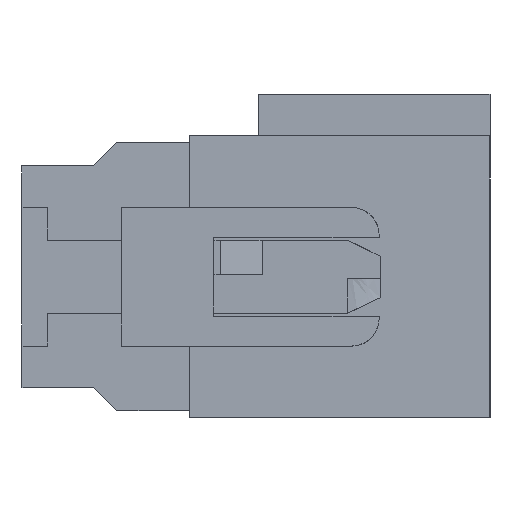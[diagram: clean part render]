
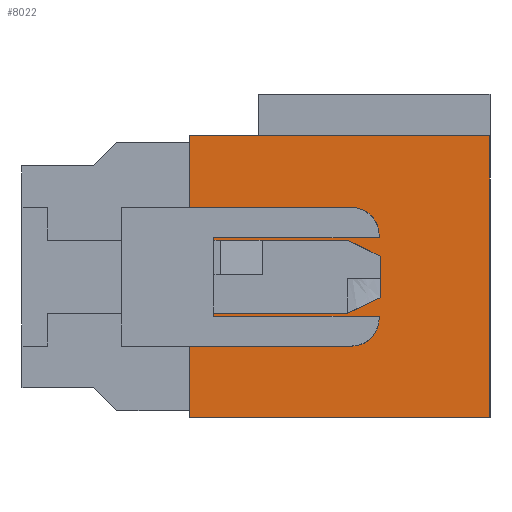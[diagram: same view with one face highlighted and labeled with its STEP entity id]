
A CAD part, left-side view. The second image highlights one B-rep face of the part: STEP entity #8022.
In plain terms, the highlighted planar face has unit normal (-1, 0, 0).
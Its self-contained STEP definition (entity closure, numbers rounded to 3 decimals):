
#9=DIRECTION('',(0.,-1.,0.));
#10=VECTOR('',#9,3.421);
#11=CARTESIAN_POINT('',(1.48,6.5,-4.74));
#12=LINE('5178',#11,#10);
#13=DIRECTION('',(0.,-0.899,0.438));
#14=VECTOR('',#13,0.379);
#15=CARTESIAN_POINT('',(1.48,3.079,-4.74));
#16=LINE('5181',#15,#14);
#17=DIRECTION('',(0.,0.,-1.));
#18=VECTOR('',#17,1.248);
#19=CARTESIAN_POINT('',(1.48,2.739,-3.326));
#20=LINE('5182',#19,#18);
#21=DIRECTION('',(0.,0.899,0.438));
#22=VECTOR('',#21,0.379);
#23=CARTESIAN_POINT('',(1.48,2.739,-3.326));
#24=LINE('5180',#23,#22);
#25=DIRECTION('',(0.,-1.,0.));
#26=VECTOR('',#25,3.421);
#27=CARTESIAN_POINT('',(1.48,6.5,-3.16));
#28=LINE('5179',#27,#26);
#29=DIRECTION('',(0.,-1.,0.));
#30=VECTOR('',#29,0.52);
#31=CARTESIAN_POINT('',(1.48,6.5,-3.12));
#32=LINE('4506',#31,#30);
#33=DIRECTION('',(0.,0.,-1.));
#34=VECTOR('',#33,0.02);
#35=CARTESIAN_POINT('',(1.48,5.98,-3.1));
#36=LINE('4505',#35,#34);
#37=DIRECTION('',(0.,1.,0.));
#38=VECTOR('',#37,3.38);
#39=CARTESIAN_POINT('',(1.48,2.6,-3.1));
#40=LINE('4504',#39,#38);
#41=DIRECTION('',(0.,0.,1.));
#42=VECTOR('',#41,0.497);
#43=CARTESIAN_POINT('',(1.48,2.6,-3.1));
#44=LINE('4512',#43,#42);
#45=DIRECTION('',(0.,-1.,0.));
#46=VECTOR('',#45,6.5);
#47=CARTESIAN_POINT('',(1.48,6.5,-0.9));
#48=LINE('4135',#47,#46);
#49=DIRECTION('',(0.,1.,0.));
#50=VECTOR('',#49,6.5);
#51=CARTESIAN_POINT('',(1.48,0.,-7.));
#52=LINE('4134',#51,#50);
#53=DIRECTION('',(0.,-1.,0.));
#54=VECTOR('',#53,3.5);
#55=CARTESIAN_POINT('',(1.48,6.5,-5.45));
#56=LINE('4160',#55,#54);
#57=DIRECTION('',(0.,0.,1.));
#58=VECTOR('',#57,0.497);
#59=CARTESIAN_POINT('',(1.48,2.6,-5.297));
#60=LINE('4163',#59,#58);
#137=DIRECTION('',(0.,0.,-1.));
#138=VECTOR('',#137,1.55);
#139=CARTESIAN_POINT('',(1.48,6.5,-0.9));
#140=LINE('4133',#139,#138);
#149=DIRECTION('',(0.,0.,-1.));
#150=VECTOR('',#149,0.04);
#151=CARTESIAN_POINT('',(1.48,6.5,-3.12));
#152=LINE('5371',#151,#150);
#181=DIRECTION('',(0.,0.,-1.));
#182=VECTOR('',#181,0.06);
#183=CARTESIAN_POINT('',(1.48,6.5,-4.74));
#184=LINE('5372',#183,#182);
#193=DIRECTION('',(0.,0.,1.));
#194=VECTOR('',#193,1.55);
#195=CARTESIAN_POINT('',(1.48,6.5,-7.));
#196=LINE('4132',#195,#194);
#617=DIRECTION('',(0.,0.,1.));
#618=VECTOR('',#617,6.1);
#619=CARTESIAN_POINT('',(1.48,0.,-7.));
#620=LINE('4093',#619,#618);
#3520=DIRECTION('',(0.,-1.,0.));
#3521=VECTOR('',#3520,3.9);
#3522=CARTESIAN_POINT('',(1.48,6.5,-4.8));
#3523=LINE('4502',#3522,#3521);
#3586=DIRECTION('',(0.,-1.,0.));
#3587=VECTOR('',#3586,3.5);
#3588=CARTESIAN_POINT('',(1.48,6.5,-2.45));
#3589=LINE('4161',#3588,#3587);
#3603=CARTESIAN_POINT('',(1.48,3.,-3.05));
#3604=DIRECTION('',(1.,0.,0.));
#3605=DIRECTION('',(0.,0.,1.));
#3606=AXIS2_PLACEMENT_3D('',#3603,#3604,#3605);
#3608=CARTESIAN_POINT('',(1.48,2.6,-2.603));
#3754=CARTESIAN_POINT('',(1.48,2.6,-5.297));
#3756=CARTESIAN_POINT('',(1.48,3.,-4.85));
#3757=DIRECTION('',(1.,0.,0.));
#3758=DIRECTION('',(0.,-0.667,-0.745));
#3759=AXIS2_PLACEMENT_3D('',#3756,#3757,#3758);
#6062=CARTESIAN_POINT('',(1.48,0.,-7.));
#6064=VERTEX_POINT('',#6062);
#6068=CARTESIAN_POINT('',(1.48,0.,-0.9));
#6069=VERTEX_POINT('',#6068);
#6111=CARTESIAN_POINT('',(1.48,6.5,-7.));
#6113=VERTEX_POINT('',#6111);
#6142=CARTESIAN_POINT('',(1.48,6.5,-5.45));
#6143=VERTEX_POINT('',#6142);
#6144=CARTESIAN_POINT('',(1.48,6.5,-0.9));
#6145=CARTESIAN_POINT('',(1.48,6.5,-2.45));
#6146=VERTEX_POINT('',#6144);
#6147=VERTEX_POINT('',#6145);
#6156=CARTESIAN_POINT('',(1.48,5.98,-3.1));
#6157=VERTEX_POINT('',#6156);
#6164=CARTESIAN_POINT('',(1.48,3.,-2.45));
#6165=VERTEX_POINT('',#6164);
#6175=CARTESIAN_POINT('',(1.48,3.,-5.45));
#6177=VERTEX_POINT('',#6175);
#6180=VERTEX_POINT('',#3608);
#6187=VERTEX_POINT('',#3754);
#6194=CARTESIAN_POINT('',(1.48,2.6,-4.8));
#6195=VERTEX_POINT('',#6194);
#6627=CARTESIAN_POINT('',(1.48,6.5,-4.8));
#6628=VERTEX_POINT('',#6627);
#6629=CARTESIAN_POINT('',(1.48,2.6,-3.1));
#6630=VERTEX_POINT('',#6629);
#6631=CARTESIAN_POINT('',(1.48,5.98,-3.12));
#6632=VERTEX_POINT('',#6631);
#6633=CARTESIAN_POINT('',(1.48,6.5,-3.12));
#6634=VERTEX_POINT('',#6633);
#7575=CARTESIAN_POINT('',(1.48,6.5,-4.74));
#7577=VERTEX_POINT('',#7575);
#7579=CARTESIAN_POINT('',(1.48,6.5,-3.16));
#7581=VERTEX_POINT('',#7579);
#7596=CARTESIAN_POINT('',(1.48,3.079,-4.74));
#7597=VERTEX_POINT('',#7596);
#7598=CARTESIAN_POINT('',(1.48,3.079,-3.16));
#7599=VERTEX_POINT('',#7598);
#7600=CARTESIAN_POINT('',(1.48,2.739,-3.326));
#7601=VERTEX_POINT('',#7600);
#7602=CARTESIAN_POINT('',(1.48,2.739,-4.574));
#7603=VERTEX_POINT('',#7602);
#7972=CARTESIAN_POINT('',(1.48,2.6,-7.));
#7973=DIRECTION('',(-1.,0.,0.));
#7974=DIRECTION('',(0.,-1.,0.));
#7975=AXIS2_PLACEMENT_3D('',#7972,#7973,#7974);
#7976=PLANE('3594',#7975);
#7978=ORIENTED_EDGE('5178',*,*,#7977,.T.);
#7980=ORIENTED_EDGE('5181',*,*,#7979,.T.);
#7982=ORIENTED_EDGE('5182',*,*,#7981,.F.);
#7984=ORIENTED_EDGE('5180',*,*,#7983,.T.);
#7986=ORIENTED_EDGE('5179',*,*,#7985,.F.);
#7988=ORIENTED_EDGE('5371',*,*,#7987,.F.);
#7990=ORIENTED_EDGE('4506',*,*,#7989,.T.);
#7992=ORIENTED_EDGE('4505',*,*,#7991,.F.);
#7994=ORIENTED_EDGE('4504',*,*,#7993,.F.);
#7996=ORIENTED_EDGE('4512',*,*,#7995,.T.);
#7998=ORIENTED_EDGE('4164',*,*,#7997,.F.);
#8000=ORIENTED_EDGE('4161',*,*,#7999,.F.);
#8002=ORIENTED_EDGE('4133',*,*,#8001,.F.);
#8004=ORIENTED_EDGE('4135',*,*,#8003,.T.);
#8006=ORIENTED_EDGE('4093',*,*,#8005,.F.);
#8007=ORIENTED_EDGE('4134',*,*,#7961,.T.);
#8009=ORIENTED_EDGE('4132',*,*,#8008,.T.);
#8011=ORIENTED_EDGE('4160',*,*,#8010,.T.);
#8013=ORIENTED_EDGE('4165',*,*,#8012,.F.);
#8015=ORIENTED_EDGE('4163',*,*,#8014,.T.);
#8017=ORIENTED_EDGE('4502',*,*,#8016,.F.);
#8019=ORIENTED_EDGE('5372',*,*,#8018,.F.);
#8020=EDGE_LOOP('3594',(#7978,#7980,#7982,#7984,#7986,#7988,#7990,#7992,#7994,
#7996,#7998,#8000,#8002,#8004,#8006,#8007,#8009,#8011,#8013,#8015,#8017,#8019));
#8021=FACE_OUTER_BOUND('3594',#8020,.F.);
#8022=ADVANCED_FACE('3594',(#8021),#7976,.T.);
#3607=CIRCLE('4164',#3606,0.6);
#3760=CIRCLE('4165',#3759,0.6);
#7961=EDGE_CURVE('4134',#6064,#6113,#52,.T.);
#7977=EDGE_CURVE('5178',#7577,#7597,#12,.T.);
#7979=EDGE_CURVE('5181',#7597,#7603,#16,.T.);
#7981=EDGE_CURVE('5182',#7601,#7603,#20,.T.);
#7983=EDGE_CURVE('5180',#7601,#7599,#24,.T.);
#7985=EDGE_CURVE('5179',#7581,#7599,#28,.T.);
#7987=EDGE_CURVE('5371',#6634,#7581,#152,.T.);
#7989=EDGE_CURVE('4506',#6634,#6632,#32,.T.);
#7991=EDGE_CURVE('4505',#6157,#6632,#36,.T.);
#7993=EDGE_CURVE('4504',#6630,#6157,#40,.T.);
#7995=EDGE_CURVE('4512',#6630,#6180,#44,.T.);
#7997=EDGE_CURVE('4164',#6165,#6180,#3607,.T.);
#7999=EDGE_CURVE('4161',#6147,#6165,#3589,.T.);
#8001=EDGE_CURVE('4133',#6146,#6147,#140,.T.);
#8003=EDGE_CURVE('4135',#6146,#6069,#48,.T.);
#8005=EDGE_CURVE('4093',#6064,#6069,#620,.T.);
#8008=EDGE_CURVE('4132',#6113,#6143,#196,.T.);
#8010=EDGE_CURVE('4160',#6143,#6177,#56,.T.);
#8012=EDGE_CURVE('4165',#6187,#6177,#3760,.T.);
#8014=EDGE_CURVE('4163',#6187,#6195,#60,.T.);
#8016=EDGE_CURVE('4502',#6628,#6195,#3523,.T.);
#8018=EDGE_CURVE('5372',#7577,#6628,#184,.T.);
